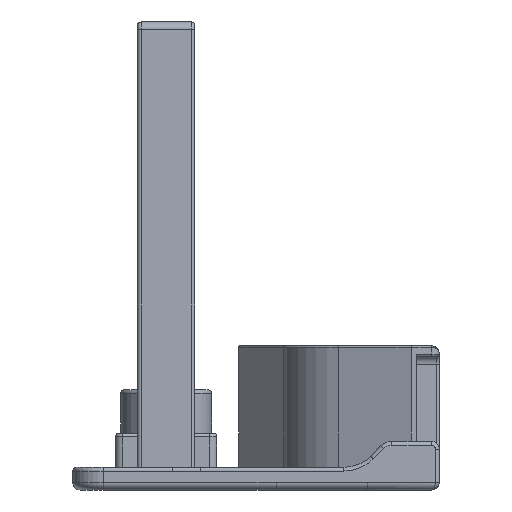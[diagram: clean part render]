
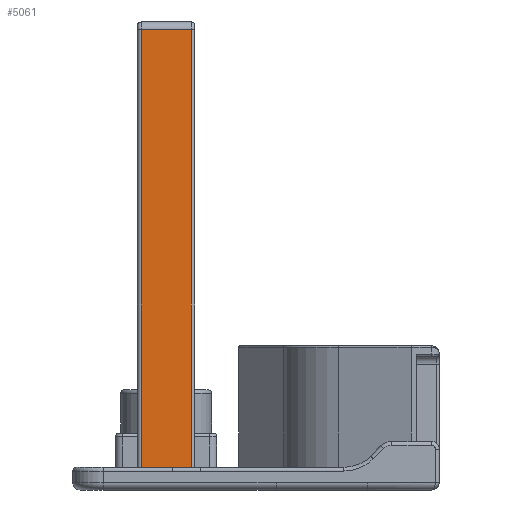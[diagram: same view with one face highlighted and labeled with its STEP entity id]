
A CAD part, front view. The second image highlights one B-rep face of the part: STEP entity #5061.
In plain terms, the highlighted planar face has unit normal (0, -1, 0).
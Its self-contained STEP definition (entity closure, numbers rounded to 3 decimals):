
#133 = ORIENTED_EDGE ( 'NONE', *, *, #4161, .F. ) ;
#503 = EDGE_CURVE ( 'NONE', #1403, #3110, #4676, .T. ) ;
#559 = CARTESIAN_POINT ( 'NONE',  ( -3.3, -6., 0. ) ) ;
#948 = CARTESIAN_POINT ( 'NONE',  ( 3.3, -6., 0. ) ) ;
#1319 = EDGE_LOOP ( 'NONE', ( #133, #3239, #1933, #5167 ) ) ;
#1391 = CARTESIAN_POINT ( 'NONE',  ( 3.8, -6., 58.7 ) ) ;
#1403 = VERTEX_POINT ( 'NONE', #2692 ) ;
#1807 = DIRECTION ( 'NONE',  ( 0., -1., 0. ) ) ;
#1865 = VERTEX_POINT ( 'NONE', #948 ) ;
#1933 = ORIENTED_EDGE ( 'NONE', *, *, #2729, .F. ) ;
#2302 = VECTOR ( 'NONE', #3052, 1000. ) ;
#2692 = CARTESIAN_POINT ( 'NONE',  ( -3.3, -6., 57.7 ) ) ;
#2729 = EDGE_CURVE ( 'NONE', #1403, #3173, #5377, .T. ) ;
#3052 = DIRECTION ( 'NONE',  ( -1., 0., 0. ) ) ;
#3070 = VECTOR ( 'NONE', #3620, 1000. ) ;
#3110 = VERTEX_POINT ( 'NONE', #559 ) ;
#3173 = VERTEX_POINT ( 'NONE', #3182 ) ;
#3179 = LINE ( 'NONE', #4782, #2302 ) ;
#3182 = CARTESIAN_POINT ( 'NONE',  ( 3.3, -6., 57.7 ) ) ;
#3239 = ORIENTED_EDGE ( 'NONE', *, *, #4903, .T. ) ;
#3403 = DIRECTION ( 'NONE',  ( 0., 0., 1. ) ) ;
#3512 = VECTOR ( 'NONE', #3924, 1000. ) ;
#3543 = AXIS2_PLACEMENT_3D ( 'NONE', #1391, #1807, #4848 ) ;
#3606 = CARTESIAN_POINT ( 'NONE',  ( 3.8, -6., 57.7 ) ) ;
#3620 = DIRECTION ( 'NONE',  ( 1., 0., 0. ) ) ;
#3924 = DIRECTION ( 'NONE',  ( 0., 0., -1. ) ) ;
#3954 = PLANE ( 'NONE',  #3543 ) ;
#3973 = VECTOR ( 'NONE', #3403, 1000. ) ;
#3976 = CARTESIAN_POINT ( 'NONE',  ( -3.3, -6., 58.7 ) ) ;
#4161 = EDGE_CURVE ( 'NONE', #1865, #3110, #3179, .T. ) ;
#4245 = CARTESIAN_POINT ( 'NONE',  ( 3.3, -6., 57.7 ) ) ;
#4256 = LINE ( 'NONE', #4245, #3973 ) ;
#4446 = FACE_OUTER_BOUND ( 'NONE', #1319, .T. ) ;
#4676 = LINE ( 'NONE', #3976, #3512 ) ;
#4782 = CARTESIAN_POINT ( 'NONE',  ( 3.8, -6., 0. ) ) ;
#4848 = DIRECTION ( 'NONE',  ( 0., 0., -1. ) ) ;
#4903 = EDGE_CURVE ( 'NONE', #1865, #3173, #4256, .T. ) ;
#5061 = ADVANCED_FACE ( 'NONE', ( #4446 ), #3954, .T. ) ;
#5167 = ORIENTED_EDGE ( 'NONE', *, *, #503, .T. ) ;
#5377 = LINE ( 'NONE', #3606, #3070 ) ;
